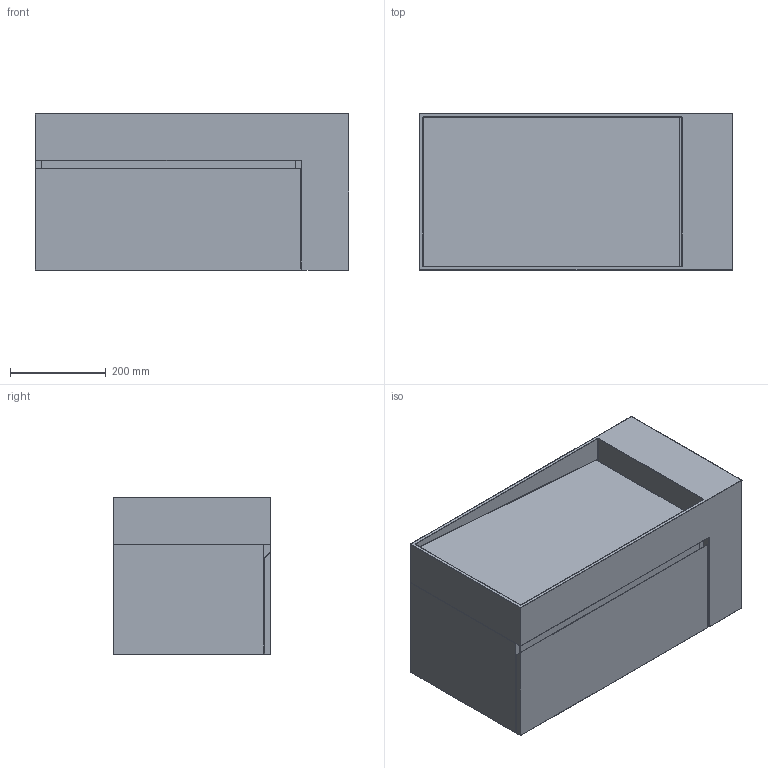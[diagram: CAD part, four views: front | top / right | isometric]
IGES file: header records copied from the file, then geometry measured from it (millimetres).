
Global section: file name: \\Archi-NAS\Comune\X GIOVANNI\SCHEDE PRODOTTO\LAVABI\SOSPESI\CUBIC XS\3D\MOMA DESIGN_LAVABI SOSPESI_CUBIC XS 2.igs; native system: Rhinoceros ( Jan 17 2018 ); preprocessor: Trout Lake IGES 012 Jan 17 2018; date: 230629.102930; units: millimetre
Bounding box: 654.6 x 327.3 x 327.3 mm (x, y, z)
Surface area: 2325484.5 mm2 (no closed solid volume)
Topology: 0 solids, 0 shells, 222 faces, 1022 edges, 1018 vertices
Faces by surface type: bspline 222
